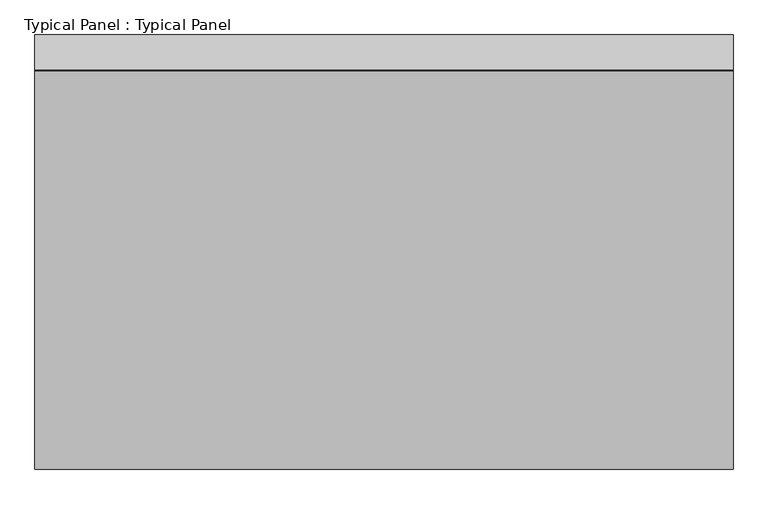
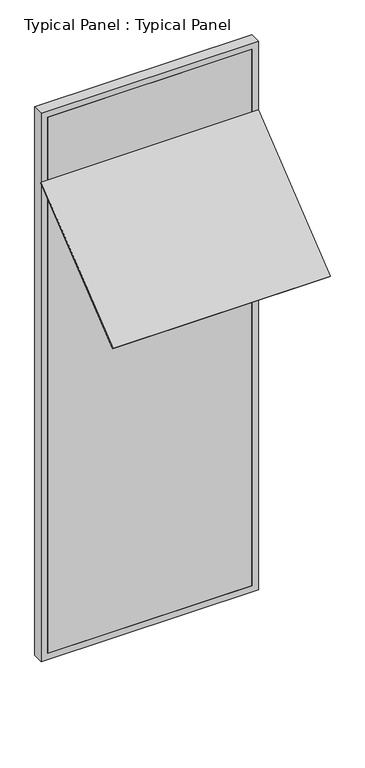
"""IFC4 building model written with IfcOpenShell, lengths in millimetres: plate geometry, Typical Panel : Typical Panel."""

from ifc_helpers import new_model, si_unit, frame, origin, place, context, project, spatial, polyline, outline, extrude, source, transform, mapped, element, save


def typical_panel_typical_panel_b0a5b154(model_context):
    return source(origin(), model_context, "Body", "SweptSolid", [
        extrude(outline(polyline([(0.0, -1100.0), (0.0, 0.0), (1500.0, 0.0), (1500.0, -1100.0), (0.0, -1100.0)])), frame((750.0, -853.5673537, 2799.9761102), z_axis=(0.0, -0.629320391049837, 0.7771459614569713), x_axis=(-1.0, 0.0, 0.0)), (0.0, 0.0, 1.0), 10.0),
        extrude(outline(polyline([(0.0, -750.0), (0.0, 750.0), (4000.0, 750.0), (4000.0, -750.0), (0.0, -750.0)]), holes=[polyline([(45.0, 705.0), (45.0, -705.0), (3955.0, -705.0), (3955.0, 705.0), (45.0, 705.0)])]), frame((0.0, -1.5797986, 0.0), z_axis=(0.0, 1.0, 0.0), x_axis=(0.0, 0.0, 1.0)), (0.0, 0.0, 1.0), 75.0),
        extrude(outline(polyline([(705.0, -1.5797986), (-705.0, -1.5797986), (-705.0, 13.4202014), (705.0, 13.4202014), (705.0, -1.5797986)])), frame((0.0, 0.0, 45.0), z_axis=(0.0, 0.0, 1.0), x_axis=(1.0, 0.0, 0.0)), (0.0, 0.0, 1.0), 3910.0),
    ])


if __name__ == "__main__":
    model = new_model("IFC4")
    model_context = context("Model", 3, world=origin())
    ifc_project = project(units=[si_unit("LENGTHUNIT", "METRE", prefix="MILLI")], contexts=[model_context])
    site = spatial("IfcSite", under=ifc_project)
    building = spatial("IfcBuilding", under=site)
    placement = place(None, origin())
    typical_panel_typical_panel_shape = typical_panel_typical_panel_b0a5b154(model_context)
    element("IfcPlate", 1, ObjectType="Typical Panel : Typical Panel", at=placement, inside=building, context=model_context, shape_type="MappedRepresentation", body=[
        mapped(typical_panel_typical_panel_shape, transform((0.0, 0.0, 0.0), x_axis=(1.0, 0.0, 0.0), y_axis=(0.0, 1.0, 0.0), z_axis=(0.0, 0.0, 1.0))),
    ])
    save(model, "model.ifc")
